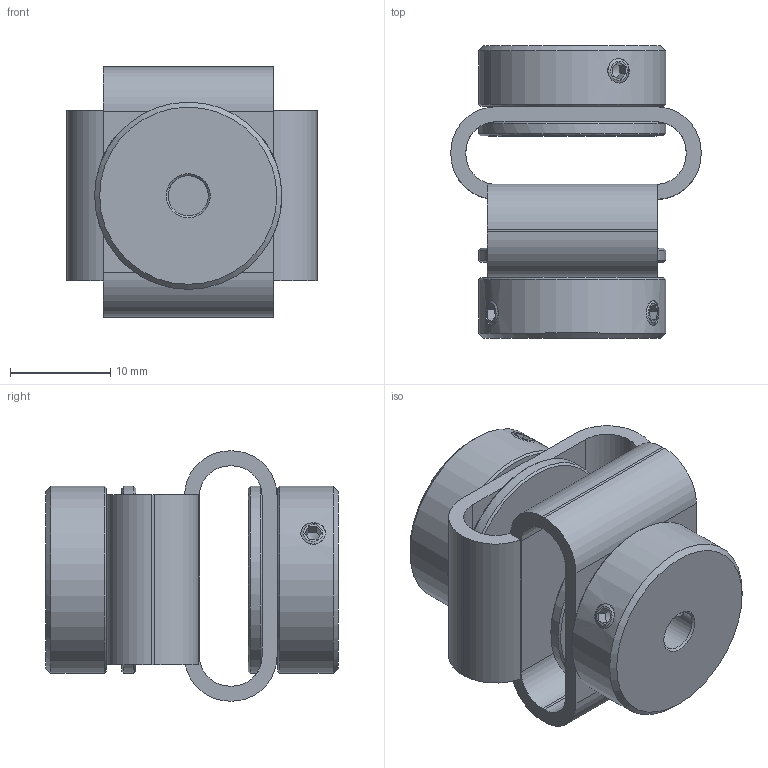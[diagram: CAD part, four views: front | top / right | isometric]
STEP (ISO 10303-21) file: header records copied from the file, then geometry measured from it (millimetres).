
FILE_DESCRIPTION(/* description */ (''),/* implementation_level */ '2;1');
FILE_NAME(/* name */ 'Z:\ABP-Antriebstechnik\Entwicklung-3D\Paguflex\DKPS 2928 04 04.stp',/* time_stamp */ '2017-06-26T14:39:21+02:00',/* author */ ('werner.boesinger'),/* organization */ (''),/* preprocessor_version */ 'ST-DEVELOPER v16.1',/* originating_system */ 'Autodesk Inventor 2016',/* authorisation */ '');
FILE_SCHEMA (('AUTOMOTIVE_DESIGN { 1 0 10303 214 3 1 1 }'));
Length unit declared in the file: millimetre
Products named in the file (1): DKPS 2928 04 04
Bounding box: 25 x 29.2 x 25 mm (x, y, z)
Volume: 6155 mm3; surface area: 5409.6 mm2
Topology: 1 solids, 3 shells, 154 faces, 372 edges, 230 vertices
Faces by surface type: plane 90, cylinder 36, cone 28
Full cylindrical faces by diameter (mm): 2.459 x8, 4 x2, 12.5 x2, 14 x4, 18.7 x4
Entity records: 4367 total; most frequent: CARTESIAN_POINT 961, DIRECTION 694, ORIENTED_EDGE 572, EDGE_CURVE 286, AXIS2_PLACEMENT_3D 273, EDGE_LOOP 220, VERTEX_POINT 192, STYLED_ITEM 155
